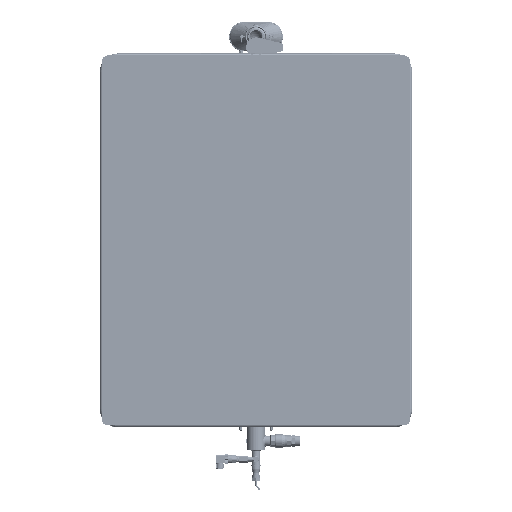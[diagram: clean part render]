
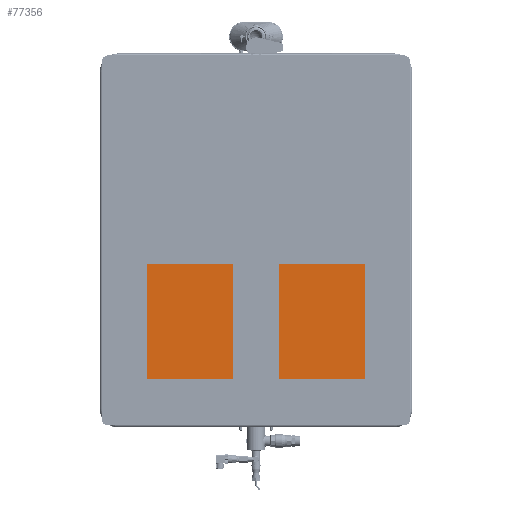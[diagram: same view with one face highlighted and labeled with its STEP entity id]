
A CAD part, front view. The second image highlights one B-rep face of the part: STEP entity #77356.
In plain terms, the highlighted planar face has unit normal (0, -1, 0).
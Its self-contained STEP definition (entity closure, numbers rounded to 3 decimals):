
#5349=LINE('',#267541,#10544);
#5406=LINE('',#267681,#10601);
#5428=LINE('',#267770,#10623);
#5453=LINE('',#267875,#10648);
#10544=VECTOR('',#99129,960.);
#10601=VECTOR('',#99230,960.);
#10623=VECTOR('',#99326,415.);
#10648=VECTOR('',#99459,415.);
#15555=PLANE('',#83231);
#21631=FACE_OUTER_BOUND('',#26365,.T.);
#26365=EDGE_LOOP('',(#66954,#66955,#66956,#66957,#66958,#66959,#66960,#66961));
#29425=CIRCLE('',#83170,20.);
#29426=CIRCLE('',#83172,20.);
#29436=CIRCLE('',#83190,20.);
#29439=CIRCLE('',#83194,20.);
#36130=VERTEX_POINT('',#267538);
#36131=VERTEX_POINT('',#267540);
#36191=VERTEX_POINT('',#267678);
#36192=VERTEX_POINT('',#267680);
#36214=VERTEX_POINT('',#267745);
#36215=VERTEX_POINT('',#267749);
#36221=VERTEX_POINT('',#267767);
#36222=VERTEX_POINT('',#267769);
#46510=EDGE_CURVE('',#36131,#36130,#5349,.T.);
#46579=EDGE_CURVE('',#36191,#36192,#5406,.T.);
#46612=EDGE_CURVE('',#36131,#36214,#29425,.F.);
#46614=EDGE_CURVE('',#36215,#36191,#29426,.F.);
#46624=EDGE_CURVE('',#36222,#36221,#5428,.T.);
#46638=EDGE_CURVE('',#36222,#36130,#29436,.F.);
#46641=EDGE_CURVE('',#36192,#36221,#29439,.F.);
#46680=EDGE_CURVE('',#36215,#36214,#5453,.T.);
#66954=ORIENTED_EDGE('',*,*,#46624,.T.);
#66955=ORIENTED_EDGE('',*,*,#46641,.F.);
#66956=ORIENTED_EDGE('',*,*,#46579,.F.);
#66957=ORIENTED_EDGE('',*,*,#46614,.F.);
#66958=ORIENTED_EDGE('',*,*,#46680,.T.);
#66959=ORIENTED_EDGE('',*,*,#46612,.F.);
#66960=ORIENTED_EDGE('',*,*,#46510,.T.);
#66961=ORIENTED_EDGE('',*,*,#46638,.F.);
#77356=ADVANCED_FACE('',(#21631),#15555,.F.);
#83170=AXIS2_PLACEMENT_3D('',#267746,#99302,#99303);
#83172=AXIS2_PLACEMENT_3D('',#267750,#99307,#99308);
#83190=AXIS2_PLACEMENT_3D('',#267795,#99357,#99358);
#83194=AXIS2_PLACEMENT_3D('',#267799,#99365,#99366);
#83231=AXIS2_PLACEMENT_3D('',#267874,#99457,#99458);
#99129=DIRECTION('',(-1.,0.,0.));
#99230=DIRECTION('',(-1.,0.,0.));
#99302=DIRECTION('center_axis',(0.,1.,0.));
#99303=DIRECTION('ref_axis',(0.707,0.,-0.707));
#99307=DIRECTION('center_axis',(0.,1.,0.));
#99308=DIRECTION('ref_axis',(0.707,0.,0.707));
#99326=DIRECTION('',(0.,0.,-1.));
#99357=DIRECTION('center_axis',(0.,1.,0.));
#99358=DIRECTION('ref_axis',(-0.707,0.,-0.707));
#99365=DIRECTION('center_axis',(0.,1.,0.));
#99366=DIRECTION('ref_axis',(-0.707,0.,0.707));
#99457=DIRECTION('center_axis',(0.,1.,0.));
#99458=DIRECTION('ref_axis',(0.,0.,1.));
#99459=DIRECTION('',(0.,0.,1.));
#267538=CARTESIAN_POINT('',(-480.,105.,-675.));
#267540=CARTESIAN_POINT('',(480.,105.,-675.));
#267541=CARTESIAN_POINT('',(500.,105.,-675.));
#267678=CARTESIAN_POINT('',(480.,105.,-1050.));
#267680=CARTESIAN_POINT('',(-480.,105.,-1050.));
#267681=CARTESIAN_POINT('',(500.,105.,-1050.));
#267745=CARTESIAN_POINT('',(500.,105.,-655.));
#267746=CARTESIAN_POINT('Origin',(480.,105.,-655.));
#267749=CARTESIAN_POINT('',(500.,105.,-1070.));
#267750=CARTESIAN_POINT('Origin',(480.,105.,-1070.));
#267767=CARTESIAN_POINT('',(-500.,105.,-1070.));
#267769=CARTESIAN_POINT('',(-500.,105.,-655.));
#267770=CARTESIAN_POINT('',(-500.,105.,-1125.));
#267795=CARTESIAN_POINT('Origin',(-480.,105.,-655.));
#267799=CARTESIAN_POINT('Origin',(-480.,105.,-1070.));
#267874=CARTESIAN_POINT('Origin',(500.,105.,-1050.));
#267875=CARTESIAN_POINT('',(500.,105.,-1125.));
